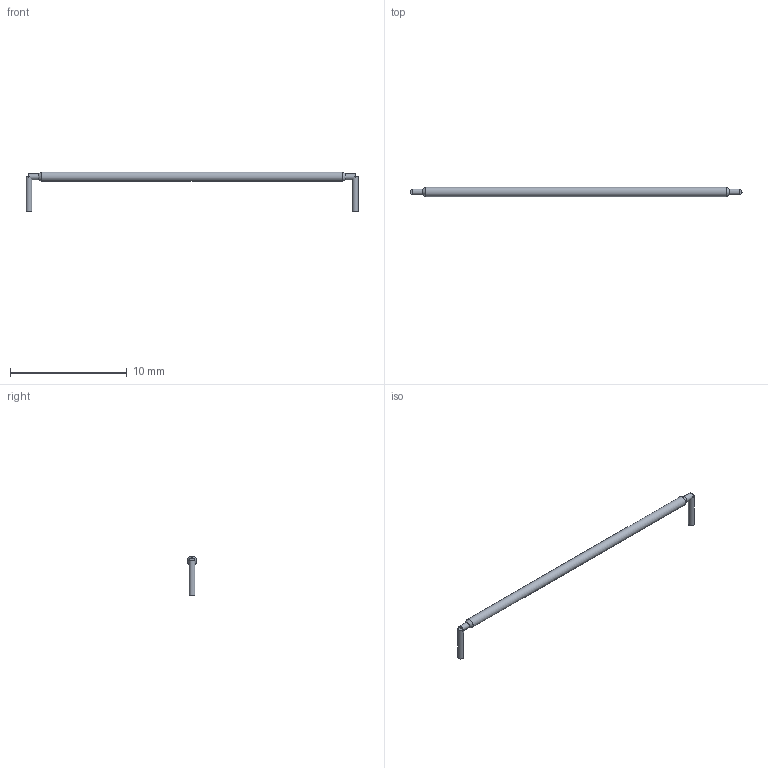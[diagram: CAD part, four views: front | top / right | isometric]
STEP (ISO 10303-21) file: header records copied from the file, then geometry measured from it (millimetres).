
FILE_DESCRIPTION(('FreeCAD Model'),'2;1');
FILE_NAME('Open CASCADE Shape Model','2026-04-07T19:07:43',('FreeCAD'),( 'FreeCAD'),'Open CASCADE STEP processor 7.8','FreeCAD','Unknown');
FILE_SCHEMA(('AUTOMOTIVE_DESIGN { 1 0 10303 214 1 1 1 1 }'));
Length unit declared in the file: millimetre
Products named in the file (1): Open CASCADE STEP translator 7.8 11
Bounding box: 28.44 x 0.8 x 3.4 mm (x, y, z)
Volume: 19.8 mm3; surface area: 120.9 mm2
Topology: 4 solids, 4 shells, 14 faces, 16 edges, 10 vertices
Faces by surface type: plane 8, cylinder 4, cone 2
Full cylindrical faces by diameter (mm): 0.5 x3, 0.8 x1
Entity records: 287 total; most frequent: DIRECTION 56, CARTESIAN_POINT 41, ORIENTED_EDGE 32, AXIS2_PLACEMENT_3D 25, EDGE_CURVE 16, ADVANCED_FACE 14, FACE_BOUND 14, EDGE_LOOP 14
